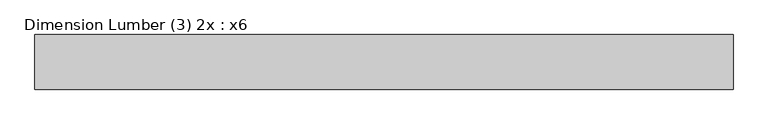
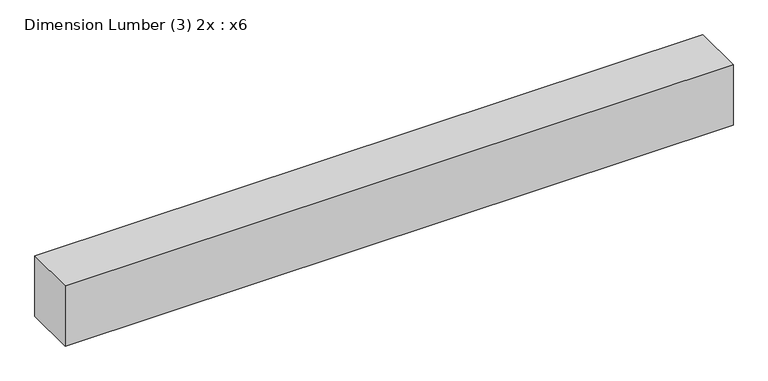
"""IFC4 building model written with IfcOpenShell, lengths in millimetres: beam geometry, Dimension Lumber (3) 2x : x6."""

from ifc_helpers import new_model, si_unit, frame, origin, place, context, project, spatial, polyline, outline, extrude, source, transform, mapped, element, save


def dimension_lumber_3_2x_x6_f6200c4b(model_context):
    return source(origin(), model_context, "Body", "SweptSolid", [
        extrude(outline(polyline([(711.2, 57.15), (711.2, -57.15), (-749.3, -57.15), (-749.3, 57.15), (711.2, 57.15)])), frame((0.0, 0.0, -69.85), z_axis=(0.0, 0.0, 1.0), x_axis=(1.0, 0.0, 0.0)), (0.0, 0.0, 1.0), 139.7),
    ])


if __name__ == "__main__":
    model = new_model("IFC4")
    model_context = context("Model", 3, world=origin())
    ifc_project = project(units=[si_unit("LENGTHUNIT", "METRE", prefix="MILLI")], contexts=[model_context])
    site = spatial("IfcSite", under=ifc_project)
    building = spatial("IfcBuilding", under=site)
    placement = place(None, origin())
    dimension_lumber_3_2x_x6_shape = dimension_lumber_3_2x_x6_f6200c4b(model_context)
    element("IfcBeam", 1, ObjectType="Dimension Lumber (3) 2x : x6", at=placement, inside=building, context=model_context, shape_type="MappedRepresentation", body=[
        mapped(dimension_lumber_3_2x_x6_shape, transform((0.0, 0.0, 0.0), x_axis=(1.0, 0.0, 0.0), y_axis=(0.0, 1.0, 0.0), z_axis=(0.0, 0.0, 1.0))),
    ])
    save(model, "model.ifc")
